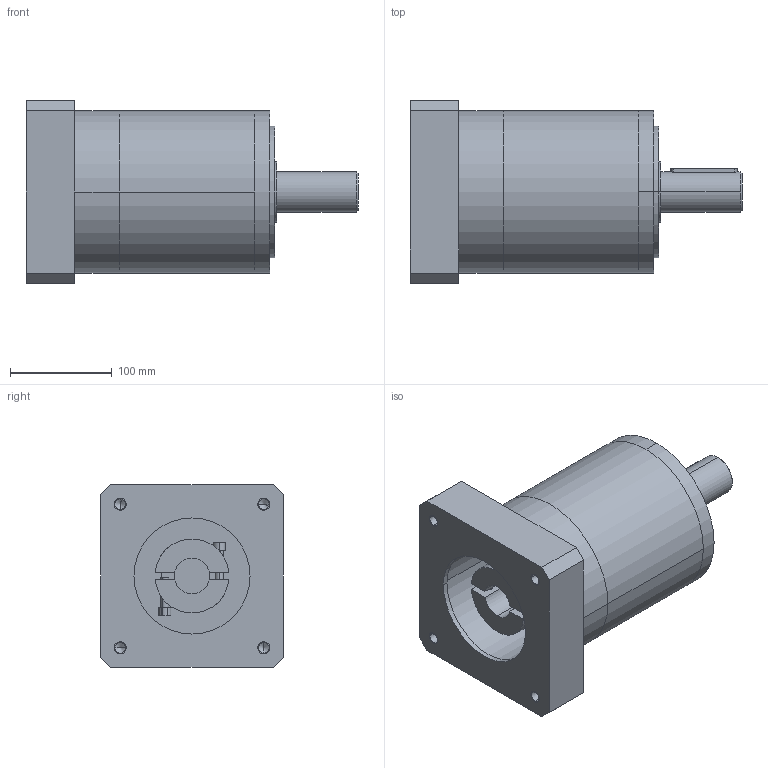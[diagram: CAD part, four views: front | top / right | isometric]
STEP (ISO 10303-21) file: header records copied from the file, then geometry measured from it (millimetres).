
FILE_DESCRIPTION((''),'2;1');
FILE_NAME('PL160L2_ASM','2015-10-31T',('Administrator'),(''),'PRO/ENGINEER BY PARAMETRIC TECHNOLOGY CORPORATION, 2010280','PRO/ENGINEER BY PARAMETRIC TECHNOLOGY CORPORATION, 2010280','');
FILE_SCHEMA(('CONFIG_CONTROL_DESIGN'));
Length unit declared in the file: millimetre
Products named in the file (6): PL160ZHU; XIANTIL2; LIANZHUQI; LUOXI; PRT0002; PL160L2_ASM
Assembly tree (6 placements, depth 2):
  PL160L2_ASM
    PL160ZHU
    XIANTIL2
    LIANZHUQI
    LUOXI  x2
    PRT0002
Bounding box: 327 x 180 x 180 mm (x, y, z)
Volume: 4706731.8 mm3; surface area: 351635.9 mm2
Topology: 6 solids, 19 shells, 163 faces, 402 edges, 265 vertices
Faces by surface type: cylinder 84, plane 67, cone 12
Entity records: 4824 total; most frequent: CARTESIAN_POINT 975, DIRECTION 864, ORIENTED_EDGE 668, EDGE_CURVE 362, AXIS2_PLACEMENT_3D 349, VERTEX_POINT 245, EDGE_LOOP 187, CIRCLE 182
